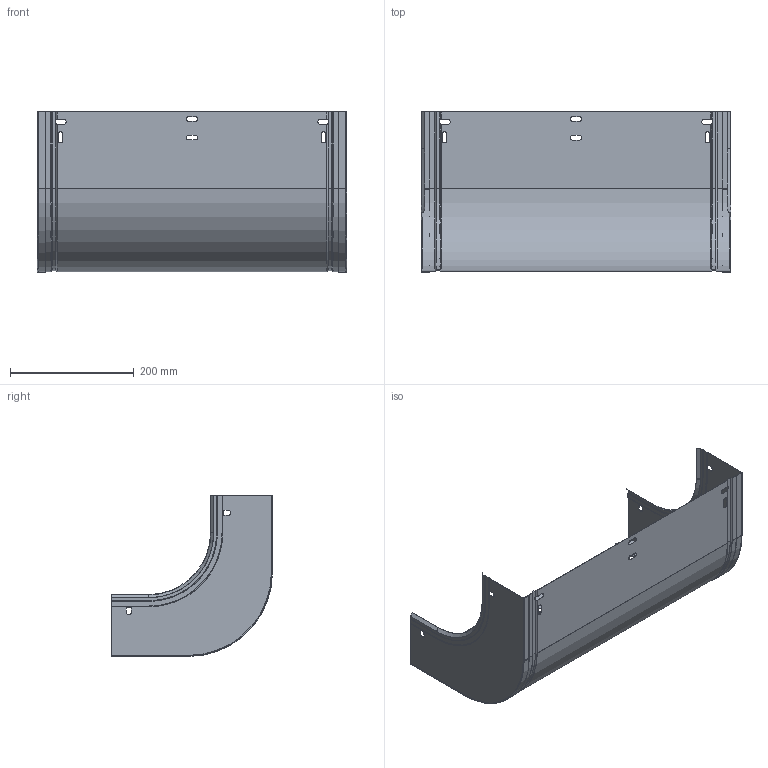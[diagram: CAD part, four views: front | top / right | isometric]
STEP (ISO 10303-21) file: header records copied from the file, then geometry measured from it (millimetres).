
FILE_DESCRIPTION (( 'STEP AP203' ), '1' );
FILE_NAME ('ERE_CONCAVA 500x100.step', '2023-07-27T18:54:31', ( '' ), ( '' ), 'SwSTEP 2.0', 'SolidWorks 2022', '' );
FILE_SCHEMA (( 'CONFIG_CONTROL_DESIGN' ));
Length unit declared in the file: millimetre
Products named in the file (3): ERE_CONCAVA 500x100; ERE_BASE CC_500x100; ERE_LATERAL CC_100
Assembly tree (3 placements, depth 2):
  ERE_CONCAVA 500x100
    ERE_BASE CC_500x100
    ERE_LATERAL CC_100  x2
Bounding box: 500 x 260 x 260 mm (x, y, z)
Volume: 257150.3 mm3; surface area: 646509.1 mm2
Topology: 3 solids, 3 shells, 234 faces, 642 edges, 402 vertices
Faces by surface type: plane 146, cylinder 62, cone 22, torus 4
Entity records: 6006 total; most frequent: CARTESIAN_POINT 1036, ORIENTED_EDGE 988, DIRECTION 969, EDGE_CURVE 494, LINE 353, VECTOR 353, VERTEX_POINT 311, AXIS2_PLACEMENT_3D 308
